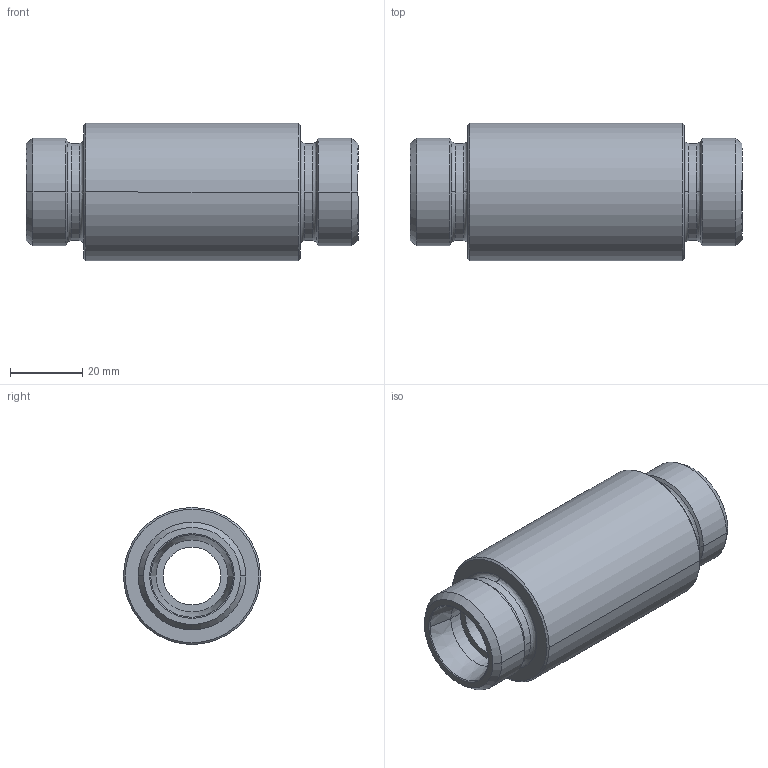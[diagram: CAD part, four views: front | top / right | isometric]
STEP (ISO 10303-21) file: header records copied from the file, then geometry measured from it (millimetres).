
FILE_DESCRIPTION((''),'2;1');
FILE_NAME('105620.stp','2007-10-31T14:07:16',(''),(''),'AutoCAD STEP 2000i','AutoCAD 2000i',', , ');
FILE_SCHEMA(('CONFIG_CONTROL_DESIGN'));
Length unit declared in the file: millimetre
Products named in the file (2): 105620.0; BARRA TONDA#0
Assembly tree (1 placements, depth 2):
  105620.0
    BARRA TONDA#0
Bounding box: 92 x 38 x 38 mm (x, y, z)
Volume: 67402 mm3; surface area: 16752.1 mm2
Topology: 1 solids, 1 shells, 50 faces, 120 edges, 76 vertices
Faces by surface type: cone 16, cylinder 16, bspline 8, plane 6, torus 4
Entity records: 1929 total; most frequent: CARTESIAN_POINT 600, DIRECTION 296, ORIENTED_EDGE 240, AXIS2_PLACEMENT_3D 132, EDGE_CURVE 120, CIRCLE 88, VERTEX_POINT 76, EDGE_LOOP 56
